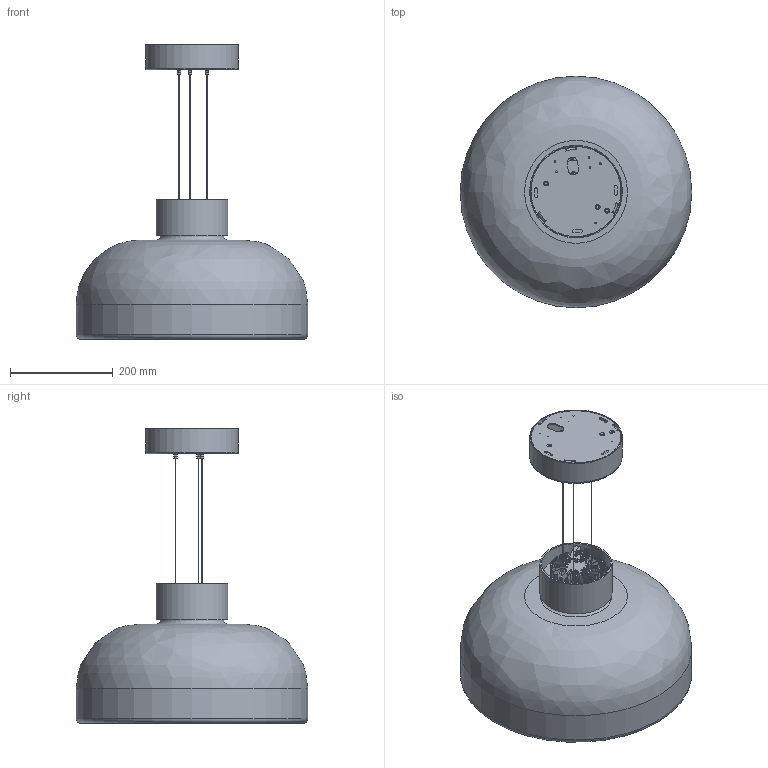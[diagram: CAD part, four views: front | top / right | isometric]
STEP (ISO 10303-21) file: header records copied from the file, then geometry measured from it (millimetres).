
FILE_DESCRIPTION(/* description */ ('AELLA SOSPENSIONE - S45'),/* implementation_level */ '2;1');
FILE_NAME(/* name */ '00500MC0LD1 - AELLA S45 COLLO BASSO - SEMPLIFICATA.stp',/* time_stamp */ '2023-05-03T13:03:04+02:00',/* author */ ('davide.turci'),/* organization */ (''),/* preprocessor_version */ 'ST-DEVELOPER v19.2',/* originating_system */ 'Autodesk Inventor 2023',/* authorisation */ '');
FILE_SCHEMA (('AUTOMOTIVE_DESIGN { 1 0 10303 214 3 1 1 }'));
Length unit declared in the file: millimetre
Products named in the file (25): 00500MC0LD1; 00500V002-B; 00500C011-12; 00500C202; DISSIPATORE MODULED 9920-B MECHATRONIX; VITE TC AUTOFIL M2,9X9,5 ZN UNI6954AB DIN7981C; K001; 00500C227; 00500C007; B001; B002; GRANO STEAB 5408-4-10-011 M7X1 NEUTRO; 00500C223; 00500C223_1; DISTANZIALE PRESSIONE M3 H8 FIL. PASS. TIPO SPECIALINSERT DP08 1 030 
12; DISTANZIALE PRESSIONE M4 H.6 FIL. PASS. TIPO SPECIALINSERT DP06 0 040.
12; K002; CAVO ACC. INOX 1X49 L 3500MM + FIN D.3X3; ASM-ROS-01; PIA-ROS-01; COP-ROS-01; GRIPPER M10X1+CILINDRETTO SICUREZZA NICHEL; DADO M10X1 H3 M.00.52.11 ELETTROLAMPART; NIPPLO M10X1 STEAB 5016-3-7-011 NEUTRO; 00500C115
Assembly tree (39 placements, depth 3):
  00500MC0LD1
    00500V002-B
    00500C011-12
    00500C202
      DISSIPATORE MODULED 9920-B MECHATRONIX
      VITE TC AUTOFIL M2,9X9,5 ZN UNI6954AB DIN7981C  x2
      K001
      00500C227
      B002
      B001
      GRANO STEAB 5408-4-10-011 M7X1 NEUTRO
    00500C007
    B001
    B002
    GRANO STEAB 5408-4-10-011 M7X1 NEUTRO
    00500C223
      00500C223_1
      DISTANZIALE PRESSIONE M3 H8 FIL. PASS. TIPO SPECIALINSERT DP08 1 030 
12  x2
      DISTANZIALE PRESSIONE M4 H.6 FIL. PASS. TIPO SPECIALINSERT DP06 0 040.
12  x3
    K002
    CAVO ACC. INOX 1X49 L 3500MM + FIN D.3X3  x3
    ASM-ROS-01
      PIA-ROS-01
      COP-ROS-01
      GRIPPER M10X1+CILINDRETTO SICUREZZA NICHEL  x3
      DADO M10X1 H3 M.00.52.11 ELETTROLAMPART  x3
      NIPPLO M10X1 STEAB 5016-3-7-011 NEUTRO
    00500C115  x3
Bounding box: 450 x 450 x 572.99 mm (x, y, z)
Volume: 2870981.1 mm3; surface area: 1352731.8 mm2
Topology: 39 solids, 39 shells, 2174 faces, 5493 edges, 3553 vertices
Faces by surface type: plane 1150, cylinder 836, cone 107, torus 69, sphere 8, bspline 4
Full cylindrical faces by diameter (mm): 1 x3, 1.5 x3, 2 x6, 2.459 x2, 2.9 x2, 3 x11, 3.3 x3, 3.5 x8, 4 x14, 4.5 x4, 5 x3, 5.38 x2, 5.4 x2, 5.917 x2, 6 x3, 6.5 x3, 7 x5, 7.11 x3, 7.2 x3, 9 x5, 10 x12, 10.5 x2, 12 x6, 13 x3, 106 x1, 113 x1, 123 x1, 134 x1, 140 x1, 178 x1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
Entity records: 55858 total; most frequent: CARTESIAN_POINT 10022, DIRECTION 9702, ORIENTED_EDGE 8888, EDGE_CURVE 4444, AXIS2_PLACEMENT_3D 3567, VERTEX_POINT 2872, LINE 2568, VECTOR 2568
